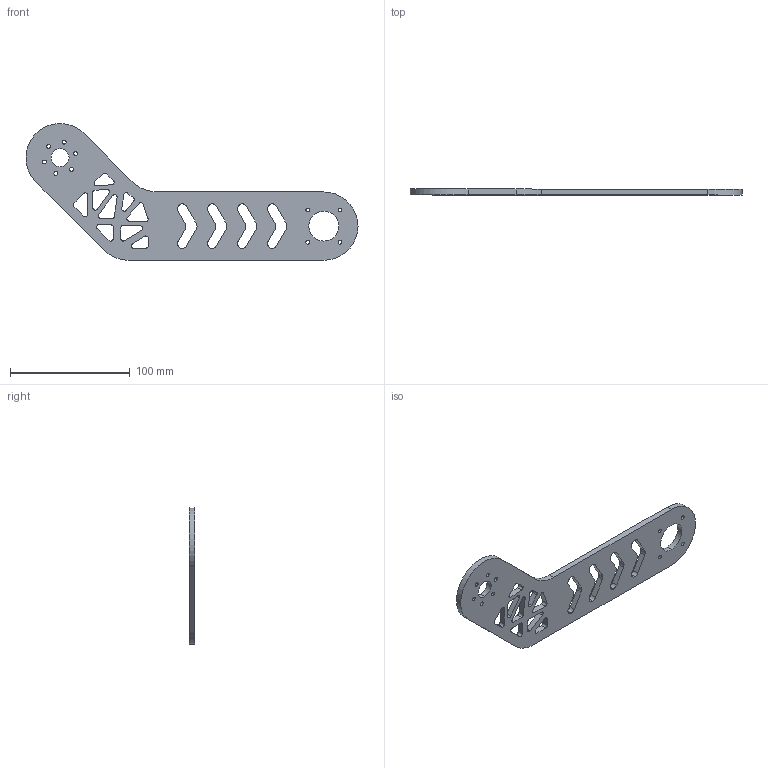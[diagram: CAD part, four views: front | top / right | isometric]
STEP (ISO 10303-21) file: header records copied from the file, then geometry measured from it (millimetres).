
FILE_DESCRIPTION (( 'STEP AP203' ), '1' );
FILE_NAME ('三四轴连杆.STEP', '2025-03-30T10:00:09', ( '' ), ( '' ), 'SwSTEP 2.0', 'SolidWorks 2022', '' );
FILE_SCHEMA (( 'CONFIG_CONTROL_DESIGN' ));
Length unit declared in the file: millimetre
Products named in the file (1): 三四轴连杆
Bounding box: 276.89 x 5 x 113.89 mm (x, y, z)
Volume: 65803 mm3; surface area: 34778 mm2
Topology: 1 solids, 1 shells, 139 faces, 411 edges, 274 vertices
Faces by surface type: cylinder 90, plane 49
Entity records: 4902 total; most frequent: DIRECTION 871, CARTESIAN_POINT 825, ORIENTED_EDGE 822, EDGE_CURVE 411, AXIS2_PLACEMENT_3D 320, VERTEX_POINT 274, LINE 231, VECTOR 231
